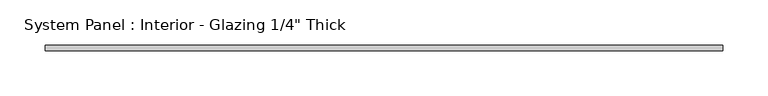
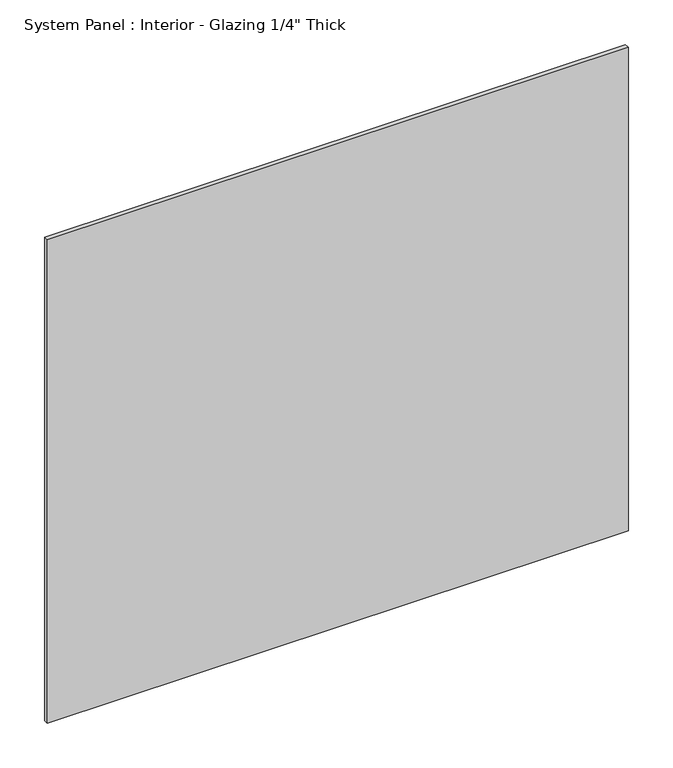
"""IFC4 building model written with IfcOpenShell, lengths in millimetres: plate geometry."""

from ifc_helpers import new_model, si_unit, origin, origin_with_axes, place, context, project, spatial, polyline, outline, extrude, source, transform, mapped, element, save


def plate_b3bfc836(model_context):
    return source(origin(), model_context, "Body", "SweptSolid", [
        extrude(outline(polyline([(376.1493109, -3.175), (-376.1493109, -3.175), (-376.1493109, 3.175), (376.1493109, 3.175), (376.1493109, -3.175)])), origin_with_axes(), (0.0, 0.0, 1.0), 661.4292721),
    ])


if __name__ == "__main__":
    model = new_model("IFC4")
    model_context = context("Model", 3, world=origin())
    ifc_project = project(units=[si_unit("LENGTHUNIT", "METRE", prefix="MILLI")], contexts=[model_context])
    site = spatial("IfcSite", under=ifc_project)
    building = spatial("IfcBuilding", under=site)
    placement = place(None, origin())
    plate_shape = plate_b3bfc836(model_context)
    element("IfcPlate", 1, ObjectType="System Panel : Interior - Glazing 1/4\" Thick", at=placement, inside=building, context=model_context, shape_type="MappedRepresentation", body=[
        mapped(plate_shape, transform((0.0, 0.0, 0.0), x_axis=(1.0, 0.0, 0.0), y_axis=(0.0, 1.0, 0.0), z_axis=(0.0, 0.0, 1.0))),
    ])
    save(model, "model.ifc")
